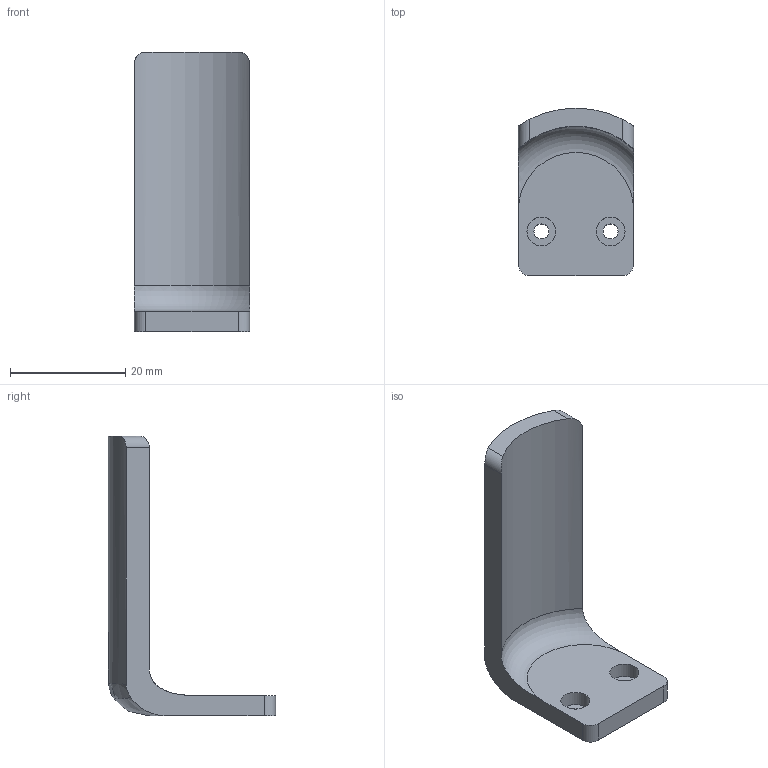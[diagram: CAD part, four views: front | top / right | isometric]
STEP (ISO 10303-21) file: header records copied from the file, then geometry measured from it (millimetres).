
FILE_DESCRIPTION(/* description */ (''),/* implementation_level */ '2;1');
FILE_NAME(/* name */ 'ORA Rounded Jaw Small.step',/* time_stamp */ '2024-09-26T15:32:01-07:00',/* author */ (''),/* organization */ (''),/* preprocessor_version */ 'ST-DEVELOPER v20',/* originating_system */ 'Autodesk Translation Framework v13.20.0.188',/* authorisation */ '');
FILE_SCHEMA (('AUTOMOTIVE_DESIGN { 1 0 10303 214 3 1 1 }'));
Length unit declared in the file: millimetre
Products named in the file (1): Gripper Lite Alternate Jaw
Bounding box: 20 x 29.01 x 48.5 mm (x, y, z)
Volume: 4785.6 mm3; surface area: 3707.8 mm2
Topology: 1 solids, 1 shells, 21 faces, 51 edges, 34 vertices
Faces by surface type: cylinder 10, plane 8, bspline 2, torus 1
Full cylindrical faces by diameter (mm): 2.6 x2, 5 x2
Entity records: 787 total; most frequent: CARTESIAN_POINT 248, ORIENTED_EDGE 102, DIRECTION 96, EDGE_CURVE 51, AXIS2_PLACEMENT_3D 37, VERTEX_POINT 34, EDGE_LOOP 27, LINE 22
